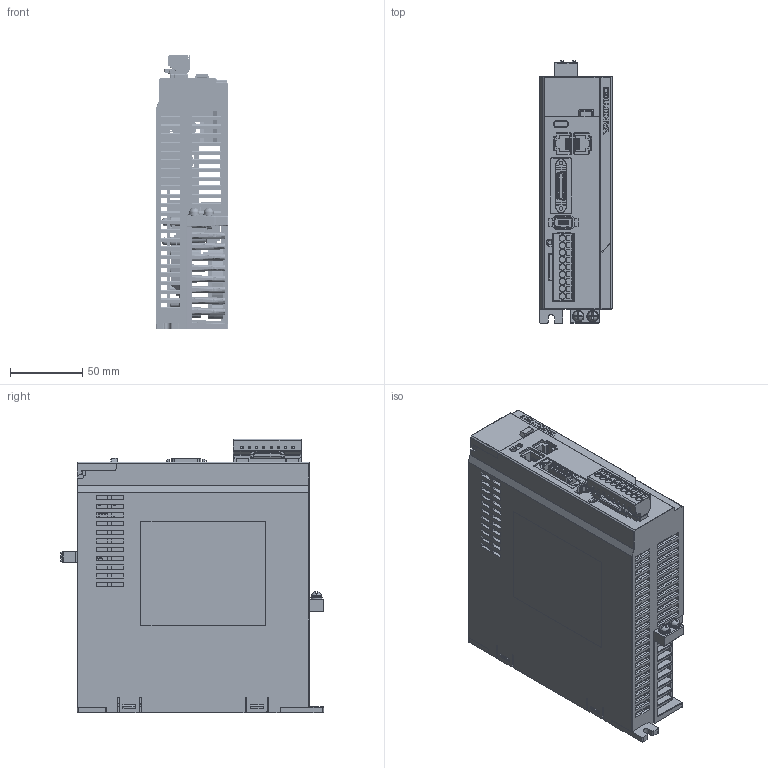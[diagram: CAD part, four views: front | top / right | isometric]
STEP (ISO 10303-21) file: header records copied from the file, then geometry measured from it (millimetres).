
FILE_DESCRIPTION((''),'2;1');
FILE_NAME('ES3F-10BNI','2026-04-15T14:04:36',('Admin'),(''),'CREO PARAMETRIC BY PTC INC, 2020074','CREO PARAMETRIC BY PTC INC, 2020074','');
FILE_SCHEMA(('CONFIG_CONTROL_DESIGN'));
Products named in the file (1): ES3F-10BNI
Bounding box: 50 x 181.55 x 188.8 mm (x, y, z)
Volume: 427029.8 mm3; surface area: 344187.2 mm2
Topology: 3 solids, 100 shells, 7742 faces, 21425 edges, 13933 vertices
Faces by surface type: plane 5252, cylinder 1668, bspline 370, cone 151, torus 147, sphere 85, extrusion 69
Entity records: 266415 total; most frequent: CARTESIAN_POINT 70497, ORIENTED_EDGE 42714, DIRECTION 37334, EDGE_CURVE 21357, VECTOR 16000, LINE 15931, VERTEX_POINT 13942, AXIS2_PLACEMENT_3D 10667
